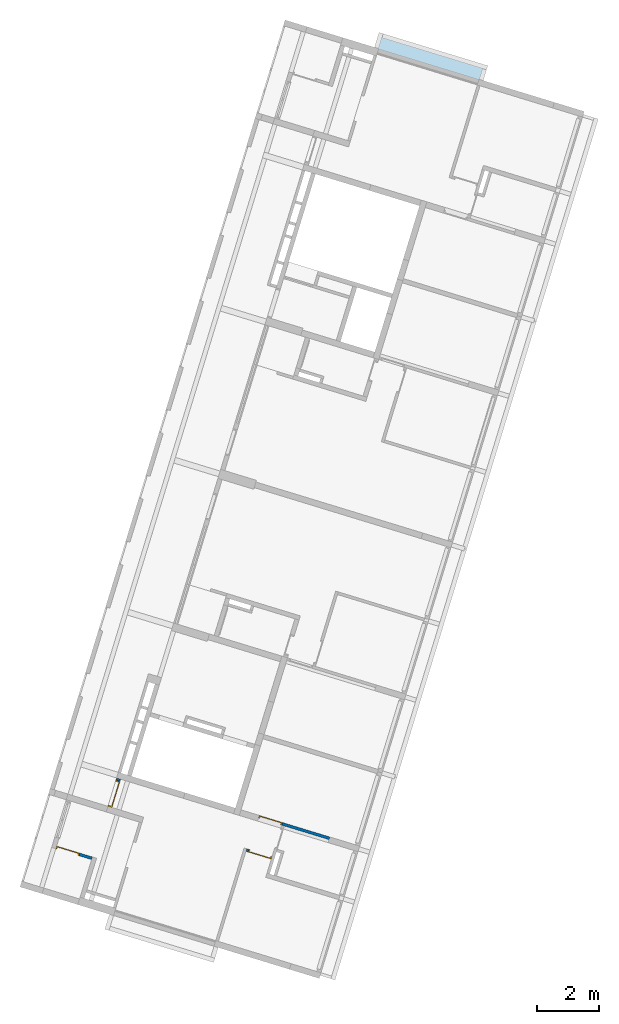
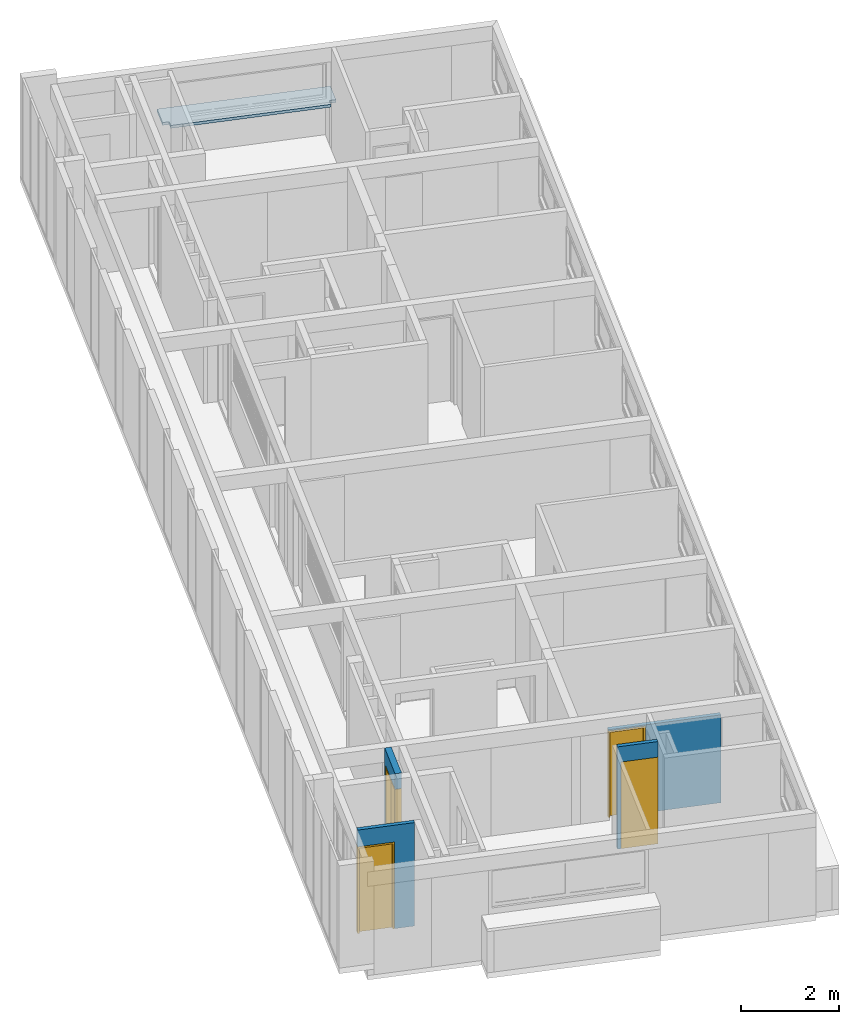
# One storey, part 1 of 18: 4 doors, 4 walls, 1 slab, 4 openings.
"""IFC2X3 building model written with IfcOpenShell, lengths in millimetres."""

from ifc_helpers import new_model, entity, si_unit, converted_unit, derived_unit, money_unit, direction, frame, origin_with_axes, place, context, subcontext, project, spatial, faceted_brep, source, transform, mapped, material, type_object, element, fill, save


model = new_model("IFC2X3")

# Units and contexts
model_context = context("Model", 3, precision=0.01, world=origin_with_axes(), true_north=direction((0.0, 1.0)))
body_context = subcontext(model_context, "Body", "Model", "MODEL_VIEW")
ifc_project = project(units=[si_unit("LENGTHUNIT", "METRE", prefix="MILLI"), si_unit("AREAUNIT", "SQUARE_METRE"), si_unit("VOLUMEUNIT", "CUBIC_METRE"), converted_unit("PLANEANGLEUNIT", "DEGREE", entity("IfcPlaneAngleMeasure", 0.0174532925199), si_unit("PLANEANGLEUNIT", "RADIAN"), dimensions=[0, 0, 0, 0, 0, 0, 0]), money_unit("USD"), converted_unit("TIMEUNIT", "Year", entity("IfcTimeMeasure", 31556926.0), si_unit("TIMEUNIT", "SECOND"), dimensions=[0, 0, 1, 0, 0, 0, 0]), si_unit("MASSUNIT", "GRAM", prefix="KILO"), si_unit("THERMODYNAMICTEMPERATUREUNIT", "DEGREE_CELSIUS"), si_unit("LUMINOUSINTENSITYUNIT", "LUMEN"), si_unit("ENERGYUNIT", "JOULE", prefix="MEGA"), derived_unit("THERMALCONDUCTANCEUNIT", [(si_unit("POWERUNIT", "WATT"), 1), (si_unit("LENGTHUNIT", "METRE"), -1), (si_unit("THERMODYNAMICTEMPERATUREUNIT", "KELVIN"), -1)]), derived_unit("SPECIFICHEATCAPACITYUNIT", [(si_unit("ENERGYUNIT", "JOULE"), 1), (si_unit("MASSUNIT", "GRAM", prefix="KILO"), -1), (si_unit("THERMODYNAMICTEMPERATUREUNIT", "KELVIN"), -1)]), derived_unit("MASSDENSITYUNIT", [(si_unit("MASSUNIT", "GRAM", prefix="KILO"), 1), (si_unit("VOLUMEUNIT", "CUBIC_METRE"), -1)])], contexts=[model_context])

# Site, building, storey, space
site_placement = place(None, frame((0.0, 0.0, 0.0), z_axis=(0.0, 0.0, 1.0), x_axis=(0.956304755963, -0.292371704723, 0.0)))
site = spatial("IfcSite", under=ifc_project, at=site_placement, Name="Site", CompositionType="ELEMENT")
building_placement = place(site_placement, origin_with_axes())
building = spatial("IfcBuilding", under=site, at=building_placement, Name="Building", CompositionType="ELEMENT")
storey_placement = place(building_placement, origin_with_axes())
storey = spatial("IfcBuildingStorey", under=building, at=storey_placement, Name="Pavimento tipo", CompositionType="ELEMENT", Elevation=0.0)
space_1_placement = place(storey_placement, frame((1481.71158317, 24839.9981298, 0.0), z_axis=(0.0, 0.0, 1.0), x_axis=(1.0, -1.55460451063e-08, 0.0)))
space_1 = spatial("IfcSpace", under=storey, at=space_1_placement, Name="04", CompositionType="ELEMENT", InteriorOrExteriorSpace="INTERNAL")

# Slab
ifc_material_1 = material(Name="Concreto - Estrutural")
slab_type = type_object("IfcSlabType", Name="Concreto - Estrutural 70", PredefinedType="FLOOR")
slab_placement = place(space_1_placement, frame((919.999412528, 4249.99199756, 1100.0), z_axis=(0.0, 0.0, 1.0), x_axis=(1.0, 1.55460451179e-08, 0.0)))
element("IfcSlab", 1, at=slab_placement, inside=space_1, type_object=slab_type, material=ifc_material_1, Name="Apt 04 - Laje 12", PredefinedType="FLOOR", context=body_context, shape_type="Brep", body=[
    faceted_brep([(0.0, 0.0, 0.0), (0.0, 0.0, -70.0), (139.99992129, -7.87300749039e-05, -70.0), (139.99992129, -7.87300749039e-05, 0.0), (-7.87379224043e-05, 500.000166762, 0.0), (-7.87379224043e-05, 500.000166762, -70.0), (3650.00010267, 500.000171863, -70.0), (3650.00010267, -7.87342209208e-05, -70.0), (3510.00525851, 0.0, -70.0), (3510.00526178, -140.000076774, -70.0), (139.999924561, -140.000155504, -70.0), (139.999924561, -140.000155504, 0.0), (3510.00526178, -140.000076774, 0.0), (3510.00525851, 0.0, 0.0), (3650.00010267, -7.87342209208e-05, 0.0), (3650.00010267, 500.000171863, 0.0)], [[[0, 1, 2, 3]], [[4, 5, 1, 0]], [[2, 1, 5, 6, 7, 8, 9, 10]], [[3, 2, 10, 11]], [[4, 0, 3, 11, 12, 13, 14, 15]], [[15, 6, 5, 4]], [[14, 7, 6, 15]], [[13, 8, 7, 14]], [[12, 9, 8, 13]], [[11, 10, 9, 12]]]),
])

# Space
space_2_placement = place(storey_placement, frame((1481.71507604, 4250.00139822, 0.0), z_axis=(0.0, 0.0, 1.0), x_axis=(3.39571890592e-07, -1.0, 0.0)))
space_2 = spatial("IfcSpace", under=storey, at=space_2_placement, Name="01", CompositionType="ELEMENT", InteriorOrExteriorSpace="INTERNAL")

# Wall, opening, door
ifc_material_2 = material(Name="Tijolo - Estrutural")
wall_type_1 = type_object("IfcWallType", Name="Tijolo - Estrutural 90", PredefinedType="NOTDEFINED")
wall_1_placement = place(space_2_placement, frame((-99.9962845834, 6959.99547796, 0.0), z_axis=(0.0, 0.0, 1.0), x_axis=(-4.06202720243e-07, -1.0, 0.0)))
wall_1 = element("IfcWall", 2, at=wall_1_placement, inside=space_2, type_object=wall_type_1, material=ifc_material_2, Name="Apt 01 - Parede 14", context=body_context, shape_type="Brep", body=[
    faceted_brep([(1589.99957007, -89.999894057, 2170.0), (2369.99957007, -89.999842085, 2170.0), (2369.99981252, -89.9998420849, 2200.0), (5.99677640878e-06, -90.0, 2200.0), (5.99677640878e-06, -90.0, 0.0), (1589.99957007, -89.999894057, 0.0), (1589.99956407, 0.00010594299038, 2170.0), (2369.99956407, 0.000157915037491, 2170.0), (2369.99980652, 0.000157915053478, 2200.0), (0.0, 0.0, 2200.0), (0.0, 0.0, 0.0), (1589.99956407, 0.00010594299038, 0.0)], [[[0, 1, 2, 3, 4, 5]], [[1, 0, 6, 7]], [[1, 7, 8, 2]], [[3, 2, 8, 9]], [[4, 3, 9, 10]], [[11, 5, 4, 10]], [[0, 5, 11, 6]], [[6, 11, 10, 9, 8, 7]]]),
])
opening_1_placement = place(wall_1_placement, frame((1979.99957007, 0.0, 0.0), z_axis=(0.0, 0.0, 1.0), x_axis=(1.0, 0.0, 0.0)))
opening_1 = element("IfcOpeningElement", 3, at=opening_1_placement, cuts=wall_1, Name="Apt 01 - Porta 05", context=body_context, shape_type="Brep", body=[
    faceted_brep([(-389.999999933, -91.0000519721, 2170.0), (-389.999999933, -91.0000519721, 0.0), (390.000000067, -91.0, 0.0), (390.000000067, -91.0, 2170.0), (-390.000006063, 1.00010594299, 2170.0), (-390.000006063, 1.00010594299, 0.0), (389.999993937, 1.00015791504, 0.0), (389.999993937, 1.00015791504, 2170.0)], [[[0, 1, 2, 3]], [[4, 5, 1, 0]], [[5, 6, 2, 1]], [[6, 7, 3, 2]], [[7, 4, 0, 3]], [[6, 5, 4, 7]]]),
])
door_style_1 = type_object("IfcDoorStyle", Name="Door 26", ConstructionType="NOTDEFINED", OperationType="SINGLE_SWING_LEFT", ParameterTakesPrecedence=False, Sizeable=False)
shared_shape_1 = source(origin_with_axes(), body_context, "Body", "Brep", [
    faceted_brep([(350.0, -30.0, 0.0), (350.0, -90.0, 0.0), (350.0, -90.0, 2130.0), (350.0, -30.0, 2130.0), (360.0, -30.0, 0.0), (360.0, 0.0, 0.0), (390.0, 0.0, 0.0), (390.0, -90.0, 0.0), (390.0, -90.0, 2130.0), (360.0, -30.0, 2130.0), (390.0, 0.0, 2130.0), (360.0, 0.0, 2130.0)], [[[0, 1, 2, 3]], [[4, 5, 6, 7, 1, 0]], [[1, 7, 8, 2]], [[9, 3, 2, 8, 10, 11]], [[9, 4, 0, 3]], [[11, 5, 4, 9]], [[11, 10, 6, 5]], [[6, 10, 8, 7]]]),
    faceted_brep([(-360.0, -30.0, 2130.0), (-360.0, 0.0, 2130.0), (-390.0, 0.0, 2130.0), (-390.0, -90.0, 2130.0), (-350.0, -90.0, 2130.0), (-350.0, -30.0, 2130.0), (-360.0, -30.0, 0.0), (-360.0, 0.0, 0.0), (-390.0, 0.0, 0.0), (-390.0, -90.0, 0.0), (-350.0, -90.0, 0.0), (-350.0, -30.0, 0.0)], [[[0, 1, 2, 3, 4, 5]], [[0, 6, 7, 1]], [[7, 8, 2, 1]], [[2, 8, 9, 3]], [[3, 9, 10, 4]], [[5, 4, 10, 11]], [[5, 11, 6, 0]], [[6, 11, 10, 9, 8, 7]]]),
    faceted_brep([(360.0, 0.0, 2140.0), (-360.0, 0.0, 2140.0), (-360.0, 0.0, 2130.0), (-390.0, 0.0, 2130.0), (-390.0, 0.0, 2170.0), (390.0, 0.0, 2170.0), (390.0, 0.0, 2130.0), (360.0, 0.0, 2130.0), (360.0, -30.0, 2140.0), (-360.0, -30.0, 2140.0), (-360.0, -30.0, 2130.0), (-350.0, -30.0, 2130.0), (-350.0, -90.0, 2130.0), (-390.0, -90.0, 2130.0), (-390.0, -90.0, 2170.0), (390.0, -90.0, 2170.0), (390.0, -90.0, 2130.0), (360.0, -30.0, 2130.0), (350.0, -90.0, 2130.0), (350.0, -30.0, 2130.0)], [[[0, 1, 2, 3, 4, 5, 6, 7]], [[0, 8, 9, 1]], [[1, 9, 10, 2]], [[10, 11, 12, 13, 3, 2]], [[4, 3, 13, 14]], [[5, 4, 14, 15]], [[6, 5, 15, 16]], [[17, 7, 6, 16, 18, 19]], [[7, 17, 8, 0]], [[10, 9, 8, 17, 19, 11]], [[19, 18, 12, 11]], [[12, 18, 16, 15, 14, 13]]]),
    faceted_brep([(-360.0, 0.0, 0.0), (360.0, 0.0, 0.0), (360.0, -30.0, 0.0), (-360.0, -30.0, 0.0), (-360.0, 0.0, 2140.0), (360.0, 0.0, 2140.0), (360.0, -30.0, 2140.0), (-360.0, -30.0, 2140.0)], [[[0, 1, 2, 3]], [[0, 4, 5, 1]], [[1, 5, 6, 2]], [[3, 2, 6, 7]], [[4, 0, 3, 7]], [[5, 4, 7, 6]]]),
])
door_1_placement = place(opening_1_placement, frame((390.0, 0.0, 0.0), z_axis=(0.0, 0.0, 1.0), x_axis=(-1.0, 0.0, 0.0)))
door_1 = element("IfcDoor", 4, at=door_1_placement, inside=space_2, type_object=door_style_1, Name="Apt 01 - Porta 05", OverallHeight=2170.0, OverallWidth=780.0, context=body_context, shape_type="MappedRepresentation", body=[
    mapped(shared_shape_1, transform((390.0, 89.999868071, 0.0))),
])
fill(opening_1, door_1)

wall_2_placement = place(space_2_placement, frame((2650.01123134, -70.0046468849, -30.0), z_axis=(0.0, 0.0, 1.0), x_axis=(1.23124516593e-06, -0.999999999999, 0.0)))
wall_2 = element("IfcWall", 5, at=wall_2_placement, inside=space_2, type_object=wall_type_1, material=ifc_material_2, Name="Apt 01 - Parede 06", context=body_context, shape_type="Brep", body=[
    faceted_brep([(1270.0186412, 0.0, 2170.0), (1270.0186412, 90.0, 2170.0), (1270.01999645, 90.0, 2230.0), (1270.0186412, 0.0, 2230.0), (490.018641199, 0.0, 2170.0), (490.018641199, 90.0, 2170.0), (1269.99802206, 90.0, 2230.0), (490.018641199, 90.0, 0.0), (70.0001413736, 90.0, 0.0), (70.0001413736, 90.0, 2590.0), (1269.99802206, 90.0, 2590.0), (1269.99788068, 0.0, 2230.0), (1269.99788068, 0.0, 2590.0), (70.0000000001, 0.0, 2590.0), (70.0000000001, 0.0, 0.0), (490.018641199, 0.0, 0.0)], [[[0, 1, 2, 3]], [[1, 0, 4, 5]], [[6, 2, 1, 5, 7, 8, 9, 10]], [[2, 6, 11, 3]], [[0, 3, 11, 12, 13, 14, 15, 4]], [[7, 5, 4, 15]], [[7, 15, 14, 8]], [[14, 13, 9, 8]], [[12, 10, 9, 13]], [[6, 10, 12, 11]]]),
])
opening_2_placement = place(wall_2_placement, frame((880.018641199, 0.0, 0.0), z_axis=(0.0, 0.0, 1.0), x_axis=(1.0, 0.0, 0.0)))
opening_2 = element("IfcOpeningElement", 6, at=opening_2_placement, cuts=wall_2, Name="Apt 01 - Porta 02", context=body_context, shape_type="Brep", body=[
    faceted_brep([(-390.0, -1.00199496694, 2170.0), (-390.0, -1.00199496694, 0.0), (390.0, -1.00199496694, 0.0), (390.0, -1.00199496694, 2170.0), (-390.0, 91.0019949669, 2170.0), (-390.0, 91.0019949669, 0.0), (390.0, 91.0019949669, 0.0), (390.0, 91.0019949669, 2170.0)], [[[0, 1, 2, 3]], [[4, 5, 1, 0]], [[5, 6, 2, 1]], [[6, 7, 3, 2]], [[7, 4, 0, 3]], [[6, 5, 4, 7]]]),
])
door_2_placement = place(opening_2_placement, frame((390.0, 0.0, 0.0), z_axis=(0.0, 0.0, 1.0), x_axis=(-1.0, 0.0, 0.0)))
door_2 = element("IfcDoor", 7, at=door_2_placement, inside=space_2, type_object=door_style_1, Name="Apt 01 - Porta 02", OverallHeight=2170.0, OverallWidth=780.0, context=body_context, shape_type="MappedRepresentation", body=[
    mapped(shared_shape_1, transform((390.0, 0.0, 0.0))),
])
fill(opening_2, door_2)

wall_3_placement = place(space_2_placement, frame((950.002854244, 4429.9976555, 0.0), z_axis=(0.0, 0.0, 1.0), x_axis=(4.06202721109e-07, 1.0, 0.0)))
wall_3 = element("IfcWall", 8, at=wall_3_placement, inside=space_2, type_object=wall_type_1, material=ifc_material_2, Name="Apt 01 - Parede 10", context=body_context, shape_type="Brep", body=[
    faceted_brep([(939.998515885, -89.9999373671, 2170.0), (939.998509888, 6.26328819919e-05, 2170.0), (939.998891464, 6.2632907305e-05, 2560.0), (939.998891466, -89.9999373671, 2560.0), (159.998509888, 1.06608339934e-05, 2170.0), (159.998515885, -89.9999893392, 2170.0), (159.998509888, 1.06608335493e-05, 0.0), (90.0, 5.99677463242e-06, 0.0), (90.0, 5.99677463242e-06, 2560.0), (90.0000843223, -89.9999940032, 2560.0), (90.0000843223, -89.9999940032, 0.0), (159.998515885, -89.9999893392, 0.0)], [[[0, 1, 2, 3]], [[4, 1, 0, 5]], [[4, 6, 7, 8, 2, 1]], [[2, 8, 9, 3]], [[5, 0, 3, 9, 10, 11]], [[6, 4, 5, 11]], [[6, 11, 10, 7]], [[9, 8, 7, 10]]]),
])
opening_3_placement = place(wall_3_placement, frame((549.998515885, 0.0, 0.0), z_axis=(0.0, 0.0, 1.0), x_axis=(1.0, 0.0, 0.0)))
opening_3 = element("IfcOpeningElement", 9, at=opening_3_placement, cuts=wall_3, Name="Apt 01 - Porta 03", context=body_context, shape_type="Brep", body=[
    faceted_brep([(-389.999999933, -91.0000519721, 2170.0), (-389.999999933, -91.0000519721, 0.0), (390.000000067, -91.0, 0.0), (390.000000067, -91.0, 2170.0), (-390.000006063, 1.00001066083, 2170.0), (-390.000006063, 1.00001066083, 0.0), (389.999993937, 1.00006263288, 0.0), (389.999993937, 1.00006263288, 2170.0)], [[[0, 1, 2, 3]], [[4, 5, 1, 0]], [[5, 6, 2, 1]], [[6, 7, 3, 2]], [[7, 4, 0, 3]], [[6, 5, 4, 7]]]),
])
door_style_2 = type_object("IfcDoorStyle", Name="Door 26", ConstructionType="NOTDEFINED", OperationType="SINGLE_SWING_RIGHT", ParameterTakesPrecedence=False, Sizeable=False)
shared_shape_2 = source(origin_with_axes(), body_context, "Body", "Brep", [
    faceted_brep([(-350.0, -30.0, 0.0), (-350.0, -30.0, 2130.0), (-350.0, -90.0, 2130.0), (-350.0, -90.0, 0.0), (-360.0, -30.0, 2130.0), (-360.0, -30.0, 0.0), (-360.0, 0.0, 2130.0), (-390.0, 0.0, 2130.0), (-390.0, -90.0, 2130.0), (-390.0, -90.0, 0.0), (-390.0, 0.0, 0.0), (-360.0, 0.0, 0.0)], [[[0, 1, 2, 3]], [[4, 1, 0, 5]], [[4, 6, 7, 8, 2, 1]], [[3, 2, 8, 9]], [[5, 0, 3, 9, 10, 11]], [[6, 4, 5, 11]], [[6, 11, 10, 7]], [[10, 9, 8, 7]]]),
    faceted_brep([(360.0, -30.0, 2130.0), (350.0, -30.0, 2130.0), (350.0, -90.0, 2130.0), (390.0, -90.0, 2130.0), (390.0, 0.0, 2130.0), (360.0, 0.0, 2130.0), (360.0, -30.0, 0.0), (350.0, -30.0, 0.0), (350.0, -90.0, 0.0), (390.0, -90.0, 0.0), (390.0, 0.0, 0.0), (360.0, 0.0, 0.0)], [[[0, 1, 2, 3, 4, 5]], [[1, 0, 6, 7]], [[1, 7, 8, 2]], [[3, 2, 8, 9]], [[4, 3, 9, 10]], [[11, 5, 4, 10]], [[0, 5, 11, 6]], [[6, 11, 10, 9, 8, 7]]]),
    faceted_brep([(-360.0, 0.0, 2140.0), (-360.0, 0.0, 2130.0), (-390.0, 0.0, 2130.0), (-390.0, 0.0, 2170.0), (390.0, 0.0, 2170.0), (390.0, 0.0, 2130.0), (360.0, 0.0, 2130.0), (360.0, 0.0, 2140.0), (-360.0, -30.0, 2140.0), (-360.0, -30.0, 2130.0), (-350.0, -30.0, 2130.0), (-350.0, -90.0, 2130.0), (-390.0, -90.0, 2130.0), (-390.0, -90.0, 2170.0), (390.0, -90.0, 2170.0), (390.0, -90.0, 2130.0), (360.0, -30.0, 2130.0), (350.0, -90.0, 2130.0), (350.0, -30.0, 2130.0), (360.0, -30.0, 2140.0)], [[[0, 1, 2, 3, 4, 5, 6, 7]], [[1, 0, 8, 9]], [[9, 10, 11, 12, 2, 1]], [[2, 12, 13, 3]], [[3, 13, 14, 4]], [[4, 14, 15, 5]], [[16, 6, 5, 15, 17, 18]], [[7, 6, 16, 19]], [[0, 7, 19, 8]], [[16, 18, 10, 9, 8, 19]], [[10, 18, 17, 11]], [[17, 15, 14, 13, 12, 11]]]),
    faceted_brep([(360.0, 0.0, 0.0), (360.0, -30.0, 0.0), (-360.0, -30.0, 0.0), (-360.0, 0.0, 0.0), (360.0, 0.0, 2140.0), (360.0, -30.0, 2140.0), (-360.0, -30.0, 2140.0), (-360.0, 0.0, 2140.0)], [[[0, 1, 2, 3]], [[4, 5, 1, 0]], [[1, 5, 6, 2]], [[3, 2, 6, 7]], [[0, 3, 7, 4]], [[7, 6, 5, 4]]]),
])
door_3_placement = place(opening_3_placement, frame((390.0, 0.0, 0.0), z_axis=(0.0, 0.0, 1.0), x_axis=(-1.0, 0.0, 0.0)))
door_3 = element("IfcDoor", 10, at=door_3_placement, inside=space_2, type_object=door_style_2, Name="Apt 01 - Porta 03", OverallHeight=2170.0, OverallWidth=780.0, context=body_context, shape_type="MappedRepresentation", body=[
    mapped(shared_shape_2, transform((390.0, 89.9999633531, 0.0))),
])
fill(opening_3, door_3)

wall_type_2 = type_object("IfcWallType", Name="Tijolo - Estrutural 140", PredefinedType="NOTDEFINED")
wall_4_placement = place(storey_placement, frame((1341.71305414, 4250.00004828, 0.0), z_axis=(0.0, 0.0, 1.0), x_axis=(0.0, -1.0, 0.0)))
wall_4 = element("IfcWall", 11, at=wall_4_placement, inside=storey, type_object=wall_type_2, material=ifc_material_2, Name="Apt 01 - Parede 22", context=body_context, shape_type="Brep", body=[
    faceted_brep([(69.9958750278, 140.0, 2170.0), (69.9958750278, 140.0, 0.0), (0.0100139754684, 140.0, 0.0), (0.0100139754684, 140.0, 2200.0), (0.0, 140.0, 2200.0), (0.0, 140.0, 2560.0), (949.996375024, 140.0, 2560.0), (949.995875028, 140.0, 2170.0), (69.9958750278, -0.00207388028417, 2170.0), (69.9958750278, -0.00192109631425, 0.0), (0.0100139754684, -0.00207388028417, 0.0), (0.0100139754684, -0.00207388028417, 2200.0), (0.0, -0.00207388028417, 2200.0), (0.0, 0.0, 2560.0), (949.995875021, -0.00152561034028, 2560.0), (949.995875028, -0.00129319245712, 2170.0)], [[[0, 1, 2, 3, 4, 5, 6, 7]], [[1, 0, 8, 9]], [[1, 9, 10, 2]], [[3, 2, 10, 11]], [[12, 4, 3, 11]], [[4, 12, 13, 5]], [[13, 14, 6, 5]], [[15, 7, 6, 14]], [[0, 7, 15, 8]], [[8, 15, 14, 13, 12, 11, 10, 9]]]),
])
opening_4_placement = place(wall_4_placement, frame((509.995875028, 0.0, 0.0), z_axis=(0.0, 0.0, 1.0), x_axis=(1.0, 0.0, 0.0)))
opening_4 = element("IfcOpeningElement", 12, at=opening_4_placement, cuts=wall_4, Name="Apt 01 - Porta 01", context=body_context, shape_type="Brep", body=[
    faceted_brep([(440.0, 141.0, 2170.0), (440.0, 141.0, 0.0), (-440.0, 141.0, 0.0), (-440.0, 141.0, 2170.0), (440.0, -1.0, 2170.0), (440.0, -1.0, 0.0), (-440.0, -1.0, 0.0), (-440.0, -1.0, 2170.0)], [[[0, 1, 2, 3]], [[4, 5, 1, 0]], [[5, 6, 2, 1]], [[6, 7, 3, 2]], [[7, 4, 0, 3]], [[6, 5, 4, 7]]]),
])
shared_shape_3 = source(origin_with_axes(), body_context, "Body", "Brep", [
    faceted_brep([(400.0, -30.0, 0.0), (400.0, -140.0, 0.0), (400.0, -140.0, 2130.0), (400.0, -30.0, 2130.0), (410.0, -30.0, 0.0), (410.0, 0.0, 0.0), (440.0, 0.0, 0.0), (440.0, -140.0, 0.0), (440.0, -140.0, 2130.0), (410.0, -30.0, 2130.0), (440.0, 0.0, 2130.0), (410.0, 0.0, 2130.0)], [[[0, 1, 2, 3]], [[4, 5, 6, 7, 1, 0]], [[1, 7, 8, 2]], [[9, 3, 2, 8, 10, 11]], [[9, 4, 0, 3]], [[11, 5, 4, 9]], [[11, 10, 6, 5]], [[6, 10, 8, 7]]]),
    faceted_brep([(-410.0, -30.0, 2130.0), (-410.0, 0.0, 2130.0), (-440.0, 0.0, 2130.0), (-440.0, -140.0, 2130.0), (-400.0, -140.0, 2130.0), (-400.0, -30.0, 2130.0), (-410.0, -30.0, 0.0), (-410.0, 0.0, 0.0), (-440.0, 0.0, 0.0), (-440.0, -140.0, 0.0), (-400.0, -140.0, 0.0), (-400.0, -30.0, 0.0)], [[[0, 1, 2, 3, 4, 5]], [[0, 6, 7, 1]], [[7, 8, 2, 1]], [[2, 8, 9, 3]], [[3, 9, 10, 4]], [[5, 4, 10, 11]], [[5, 11, 6, 0]], [[6, 11, 10, 9, 8, 7]]]),
    faceted_brep([(410.0, 0.0, 2140.0), (-410.0, 0.0, 2140.0), (-410.0, 0.0, 2130.0), (-440.0, 0.0, 2130.0), (-440.0, 0.0, 2170.0), (440.0, 0.0, 2170.0), (440.0, 0.0, 2130.0), (410.0, 0.0, 2130.0), (410.0, -30.0, 2140.0), (-410.0, -30.0, 2140.0), (-410.0, -30.0, 2130.0), (-400.0, -30.0, 2130.0), (-400.0, -140.0, 2130.0), (-440.0, -140.0, 2130.0), (-440.0, -140.0, 2170.0), (440.0, -140.0, 2170.0), (440.0, -140.0, 2130.0), (410.0, -30.0, 2130.0), (400.0, -140.0, 2130.0), (400.0, -30.0, 2130.0)], [[[0, 1, 2, 3, 4, 5, 6, 7]], [[0, 8, 9, 1]], [[1, 9, 10, 2]], [[10, 11, 12, 13, 3, 2]], [[4, 3, 13, 14]], [[5, 4, 14, 15]], [[6, 5, 15, 16]], [[17, 7, 6, 16, 18, 19]], [[7, 17, 8, 0]], [[10, 9, 8, 17, 19, 11]], [[19, 18, 12, 11]], [[12, 18, 16, 15, 14, 13]]]),
    faceted_brep([(-410.0, 0.0, 0.0), (410.0, 0.0, 0.0), (410.0, -30.0, 0.0), (-410.0, -30.0, 0.0), (-410.0, 0.0, 2140.0), (410.0, 0.0, 2140.0), (410.0, -30.0, 2140.0), (-410.0, -30.0, 2140.0)], [[[0, 1, 2, 3]], [[0, 4, 5, 1]], [[1, 5, 6, 2]], [[3, 2, 6, 7]], [[4, 0, 3, 7]], [[5, 4, 7, 6]]]),
])
door_4_placement = place(opening_4_placement, frame((-440.0, 0.0, 0.0), z_axis=(0.0, 0.0, 1.0), x_axis=(1.0, 0.0, 0.0)))
door_4 = element("IfcDoor", 13, at=door_4_placement, inside=storey, type_object=door_style_1, Name="Apt 01 - Porta 01", OverallHeight=2170.0, OverallWidth=880.0, context=body_context, shape_type="MappedRepresentation", body=[
    mapped(shared_shape_3, transform((440.0, 140.0, 0.0))),
])
fill(opening_4, door_4)

save(model, "model.ifc")
